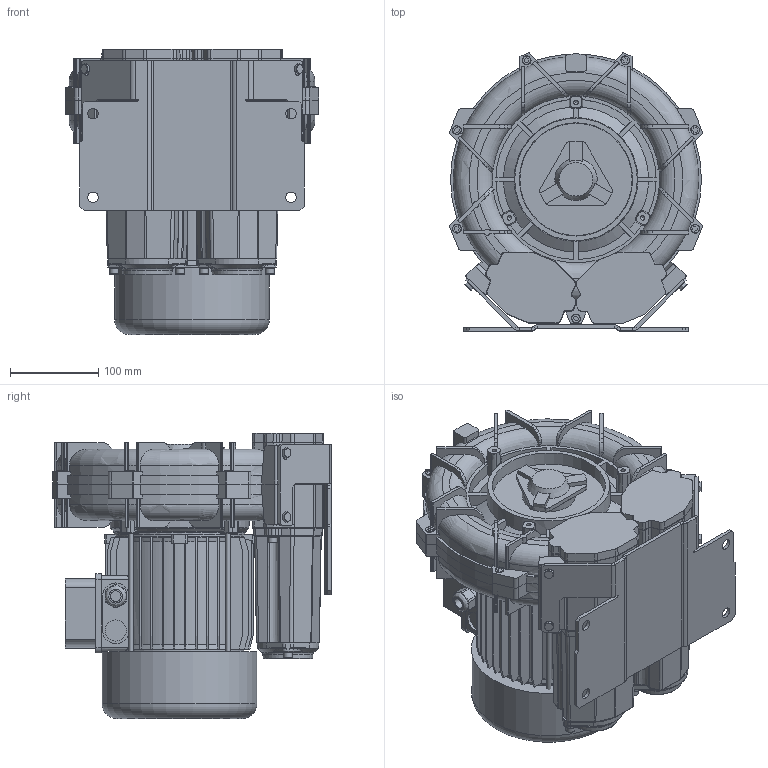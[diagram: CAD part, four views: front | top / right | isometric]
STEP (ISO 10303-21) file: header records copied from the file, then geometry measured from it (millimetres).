
FILE_DESCRIPTION (( 'STEP AP203' ), '1' );
FILE_NAME ('STP-L_e_04_MS_MOR_IE3WR_90_1.5kW-3_25-00_0.step', '2025-06-24T10:30:05', ( '' ), ( '' ), 'SwSTEP 2.0', 'SolidWorks 2024', '' );
FILE_SCHEMA (( 'CONFIG_CONTROL_DESIGN' ));
Products named in the file (1): STP-L_e_04_MS_MOR_IE3WR_90_1.5kW-3_25-00_0
Bounding box: 287.86 x 316.17 x 323.9 mm (x, y, z)
Volume: 11141163.8 mm3; surface area: 1146885.9 mm2
Topology: 77 solids, 77 shells, 3602 faces, 9263 edges, 5837 vertices
Faces by surface type: plane 1627, cylinder 887, cone 477, torus 333, bspline 278
Full cylindrical faces by diameter (mm): 4 x8, 4.2 x8, 4.917 x11, 5 x20, 5.3 x4, 5.5 x4, 6 x19, 6.4 x15, 6.5 x4, 7 x2, 8 x4, 8.5 x4, 9 x4, 10 x34, 12 x5, 14 x1, 18 x2, 20 x2, 24 x2, 45.25 x2, 60 x1, 63 x1, 130 x1, 140 x2, 146 x1, 176 x1
Entity records: 115677 total; most frequent: CARTESIAN_POINT 32621, ORIENTED_EDGE 17422, DIRECTION 16738, EDGE_CURVE 8711, AXIS2_PLACEMENT_3D 6246, VERTEX_POINT 5703, LINE 4246, VECTOR 4246
